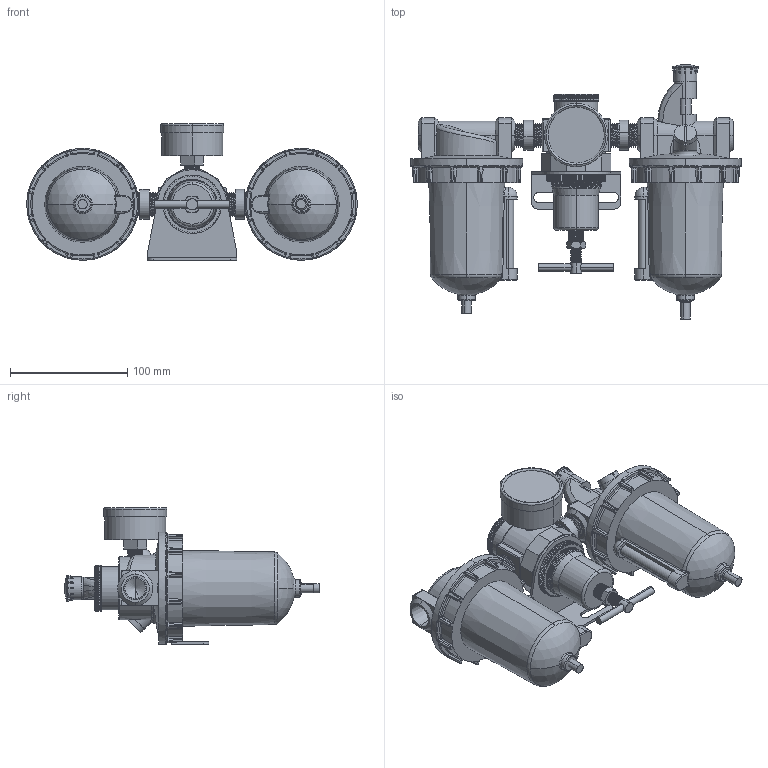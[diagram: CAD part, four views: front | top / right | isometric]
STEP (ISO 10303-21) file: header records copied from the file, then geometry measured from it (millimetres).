
FILE_DESCRIPTION (( 'STEP AP203' ), '1' );
FILE_NAME ('C668W-04#YB#.STEP', '2016-01-14T17:30:54', ( '' ), ( '' ), 'SwSTEP 2.0', 'SolidWorks 2014', '' );
FILE_SCHEMA (( 'CONFIG_CONTROL_DESIGN' ));
Length unit declared in the file: millimetre
Products named in the file (26): R010-1; 1-2-圓; R119-02-6; R011-1; C668W-04#YB#; L606-W-04; 50-P-AD=1-4PT-1; L606-W-06-3; L606-W-04-下; 50-P-AD=1-4PT-2; R011-02GB#; L606-W-04-1; 50-P-AD=1-4PT.SLDPRT; L606W-04; R010-2; R119-02-7; KWR10X51; R119-02-5; F602W-04#YB#; L606-W-06-4; F602-04-上; L606-W-06-5; KWSAR10Y57-1; L606-W-04-分割; L606-W-06-2; KWSAR10Y57
Assembly tree (29 placements, depth 4):
  C668W-04#YB#
    F602W-04#YB#
      F602-04-上
      L606-W-06-2
      L606-W-06-5
      L606-W-04-下
    R011-02GB#
      R010-1
      R010-2
      KWSAR10Y57
        KWSAR10Y57-1
        KWR10X51
      R011-1
      R119-02-5
      R119-02-6
      R119-02-7
      50-P-AD=1-4PT.SLDPRT
        50-P-AD=1-4PT-1
        50-P-AD=1-4PT-2
    L606W-04
      L606-W-06-2
      L606-W-06-5
      L606-W-06-4
      L606-W-06-3  x2
      L606-W-04
      L606-W-04-1
      L606-W-04-分割
    1-2-圓  x2
Bounding box: 282.25 x 217 x 117 mm (x, y, z)
Volume: 1293006.9 mm3; surface area: 195081.5 mm2
Topology: 24 solids, 24 shells, 1627 faces, 4318 edges, 2698 vertices
Faces by surface type: plane 599, cylinder 471, bspline 234, cone 166, torus 87, sphere 70
Entity records: 69381 total; most frequent: CARTESIAN_POINT 30669, ORIENTED_EDGE 8160, DIRECTION 6876, EDGE_CURVE 4080, VERTEX_POINT 2588, AXIS2_PLACEMENT_3D 2583, LINE 1710, VECTOR 1710
